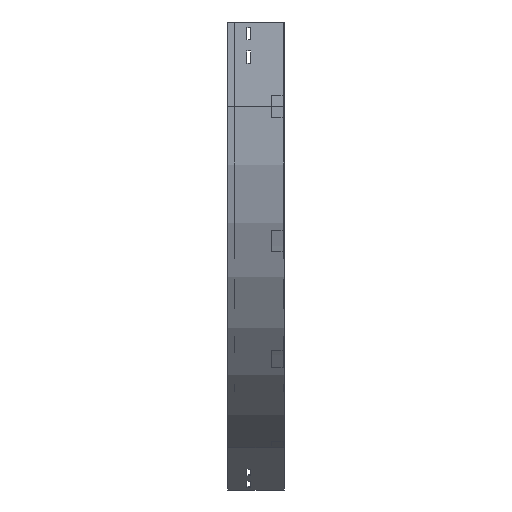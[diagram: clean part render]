
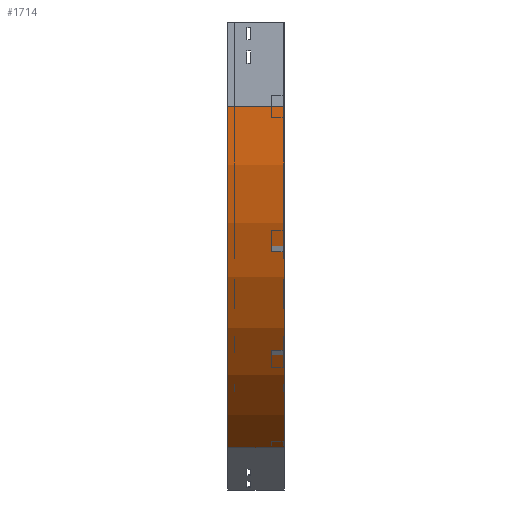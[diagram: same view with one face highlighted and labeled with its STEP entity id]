
A CAD part, left-side view. The second image highlights one B-rep face of the part: STEP entity #1714.
In plain terms, the highlighted cylindrical face has radius 700 mm (diameter 1400 mm), a partial arc.
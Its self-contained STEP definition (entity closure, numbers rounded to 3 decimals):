
#126 = DIRECTION ( 'NONE',  ( -1., 0., 0. ) ) ;
#498 = CARTESIAN_POINT ( 'NONE',  ( 0., 0., -150. ) ) ;
#752 = CARTESIAN_POINT ( 'NONE',  ( 700., 0., -150. ) ) ;
#797 = ORIENTED_EDGE ( 'NONE', *, *, #1345, .T. ) ;
#989 = FACE_OUTER_BOUND ( 'NONE', #3657, .T. ) ;
#1014 = CARTESIAN_POINT ( 'NONE',  ( 350., 100., -756.218 ) ) ;
#1118 = CIRCLE ( 'NONE', #1240, 700. ) ;
#1124 = DIRECTION ( 'NONE',  ( 0., -1., 0. ) ) ;
#1240 = AXIS2_PLACEMENT_3D ( 'NONE', #2482, #2789, #126 ) ;
#1345 = EDGE_CURVE ( 'NONE', #2876, #2531, #1118, .T. ) ;
#1564 = CARTESIAN_POINT ( 'NONE',  ( 700., 0., -150. ) ) ;
#1709 = CARTESIAN_POINT ( 'NONE',  ( 350., 0., -756.218 ) ) ;
#1714 = ADVANCED_FACE ( 'NONE', ( #989 ), #3362, .T. ) ;
#1719 = LINE ( 'NONE', #2564, #2395 ) ;
#1770 = AXIS2_PLACEMENT_3D ( 'NONE', #752, #1124, #3203 ) ;
#1883 = DIRECTION ( 'NONE',  ( 0., 0., -1. ) ) ;
#2179 = CARTESIAN_POINT ( 'NONE',  ( 0., 0., -150. ) ) ;
#2185 = EDGE_CURVE ( 'NONE', #2916, #3808, #3450, .T. ) ;
#2203 = EDGE_CURVE ( 'NONE', #2876, #2916, #2247, .T. ) ;
#2247 = LINE ( 'NONE', #498, #3206 ) ;
#2256 = EDGE_CURVE ( 'NONE', #2531, #3808, #1719, .T. ) ;
#2291 = DIRECTION ( 'NONE',  ( 0., -1., 0. ) ) ;
#2320 = ORIENTED_EDGE ( 'NONE', *, *, #2203, .F. ) ;
#2395 = VECTOR ( 'NONE', #3123, 1000. ) ;
#2467 = DIRECTION ( 'NONE',  ( 0., -1., 0. ) ) ;
#2482 = CARTESIAN_POINT ( 'NONE',  ( 700., 100., -150. ) ) ;
#2487 = AXIS2_PLACEMENT_3D ( 'NONE', #1564, #2467, #1883 ) ;
#2531 = VERTEX_POINT ( 'NONE', #1014 ) ;
#2564 = CARTESIAN_POINT ( 'NONE',  ( 350., 0., -756.218 ) ) ;
#2789 = DIRECTION ( 'NONE',  ( 0., -1., 0. ) ) ;
#2799 = CARTESIAN_POINT ( 'NONE',  ( 0., 100., -150. ) ) ;
#2876 = VERTEX_POINT ( 'NONE', #2799 ) ;
#2916 = VERTEX_POINT ( 'NONE', #2179 ) ;
#3123 = DIRECTION ( 'NONE',  ( 0., -1., 0. ) ) ;
#3203 = DIRECTION ( 'NONE',  ( -1., 0., 0. ) ) ;
#3206 = VECTOR ( 'NONE', #2291, 1000. ) ;
#3362 = CYLINDRICAL_SURFACE ( 'NONE', #2487, 700. ) ;
#3450 = CIRCLE ( 'NONE', #1770, 700. ) ;
#3614 = ORIENTED_EDGE ( 'NONE', *, *, #2185, .F. ) ;
#3657 = EDGE_LOOP ( 'NONE', ( #3614, #2320, #797, #3762 ) ) ;
#3762 = ORIENTED_EDGE ( 'NONE', *, *, #2256, .T. ) ;
#3808 = VERTEX_POINT ( 'NONE', #1709 ) ;
